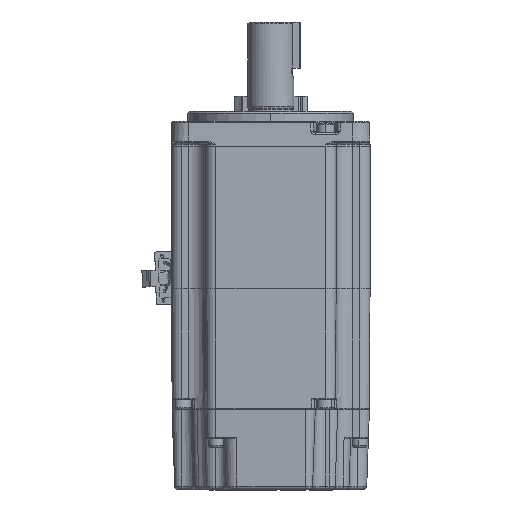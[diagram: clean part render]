
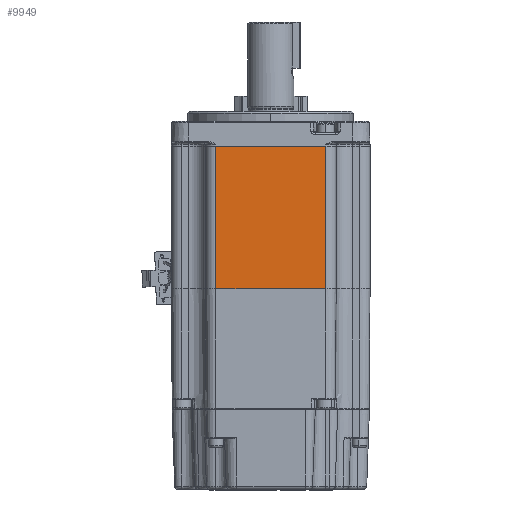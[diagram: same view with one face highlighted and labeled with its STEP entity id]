
A CAD part, front view. The second image highlights one B-rep face of the part: STEP entity #9949.
In plain terms, the highlighted planar face has unit normal (0, -1, 0).
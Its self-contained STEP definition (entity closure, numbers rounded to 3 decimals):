
#1029 = EDGE_CURVE ( 'NONE', #56047, #46836, #3821, .T. ) ;
#2407 = DIRECTION ( 'NONE',  ( 0., 1., 0. ) ) ;
#3821 = LINE ( 'NONE', #42404, #51499 ) ;
#3845 = CARTESIAN_POINT ( 'NONE',  ( -16.551, -30., 22.45 ) ) ;
#8621 = DIRECTION ( 'NONE',  ( -1., 0., 0. ) ) ;
#9949 = ADVANCED_FACE ( 'NONE', ( #14846 ), #53071, .F. ) ;
#10316 = ORIENTED_EDGE ( 'NONE', *, *, #42353, .F. ) ;
#13126 = VERTEX_POINT ( 'NONE', #41419 ) ;
#13785 = CARTESIAN_POINT ( 'NONE',  ( -16.551, -30., 21.45 ) ) ;
#14764 = DIRECTION ( 'NONE',  ( 1., 0., 0. ) ) ;
#14846 = FACE_OUTER_BOUND ( 'NONE', #29547, .T. ) ;
#15978 = CARTESIAN_POINT ( 'NONE',  ( 16.551, -30., 22.45 ) ) ;
#20386 = LINE ( 'NONE', #3845, #21826 ) ;
#21826 = VECTOR ( 'NONE', #49887, 1000. ) ;
#24205 = VECTOR ( 'NONE', #43635, 1000. ) ;
#24495 = ORIENTED_EDGE ( 'NONE', *, *, #37738, .T. ) ;
#26974 = CARTESIAN_POINT ( 'NONE',  ( -16.551, -30., -21.45 ) ) ;
#29547 = EDGE_LOOP ( 'NONE', ( #38318, #10316, #37569, #24495 ) ) ;
#31008 = VECTOR ( 'NONE', #8621, 1000. ) ;
#34635 = DIRECTION ( 'NONE',  ( -1., 0., 0. ) ) ;
#36449 = LINE ( 'NONE', #15978, #24205 ) ;
#37569 = ORIENTED_EDGE ( 'NONE', *, *, #1029, .F. ) ;
#37738 = EDGE_CURVE ( 'NONE', #56047, #13126, #20386, .T. ) ;
#38318 = ORIENTED_EDGE ( 'NONE', *, *, #39389, .F. ) ;
#39113 = CARTESIAN_POINT ( 'NONE',  ( -16.551, -30., 22.45 ) ) ;
#39215 = CARTESIAN_POINT ( 'NONE',  ( 16.551, -30., 21.45 ) ) ;
#39389 = EDGE_CURVE ( 'NONE', #46838, #13126, #43325, .T. ) ;
#41419 = CARTESIAN_POINT ( 'NONE',  ( -16.551, -30., -21.45 ) ) ;
#42353 = EDGE_CURVE ( 'NONE', #46836, #46838, #36449, .T. ) ;
#42404 = CARTESIAN_POINT ( 'NONE',  ( -16.551, -30., 21.45 ) ) ;
#43325 = LINE ( 'NONE', #26974, #31008 ) ;
#43635 = DIRECTION ( 'NONE',  ( 0., 0., -1. ) ) ;
#43882 = CARTESIAN_POINT ( 'NONE',  ( 16.551, -30., -21.45 ) ) ;
#46836 = VERTEX_POINT ( 'NONE', #39215 ) ;
#46838 = VERTEX_POINT ( 'NONE', #43882 ) ;
#46996 = AXIS2_PLACEMENT_3D ( 'NONE', #39113, #2407, #34635 ) ;
#49887 = DIRECTION ( 'NONE',  ( 0., 0., -1. ) ) ;
#51499 = VECTOR ( 'NONE', #14764, 1000. ) ;
#53071 = PLANE ( 'NONE',  #46996 ) ;
#56047 = VERTEX_POINT ( 'NONE', #13785 ) ;
